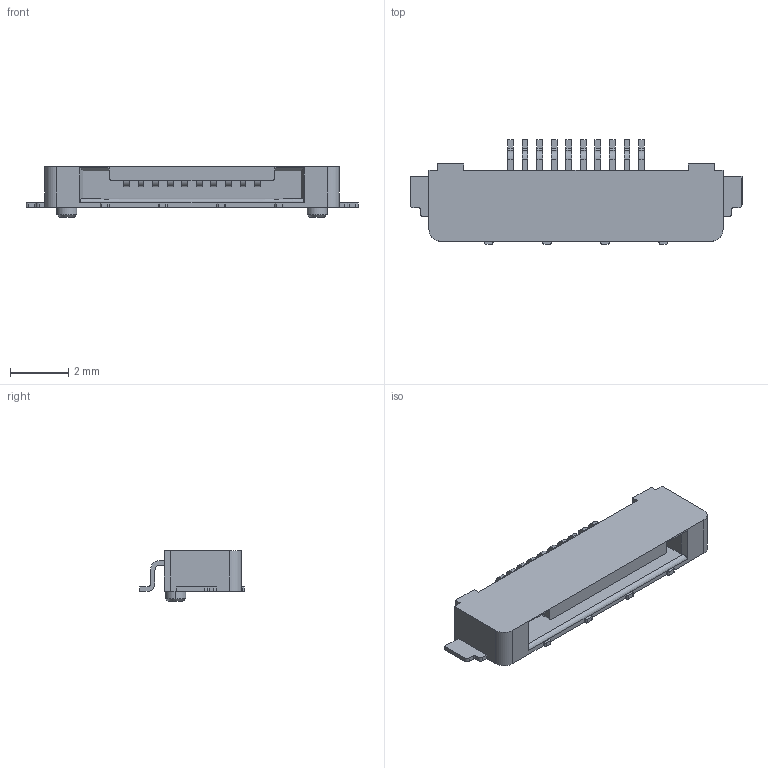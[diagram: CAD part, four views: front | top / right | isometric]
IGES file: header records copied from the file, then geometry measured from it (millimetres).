
Start section: Elysium IGES Interface
Global section: file name: C:\Users\1088\Desktop\SSL01-XXL3\SSL01-10L3_IG.igs; native system: Creo Elements/Direct Modeling 19.0F  14-Feb-2017; preprocessor: Creo Element/Direct IGES_3D V2.2; author: Unknown; organization: Unknown; date: 20170804.144107; units: millimetre
Bounding box: 11.4 x 3.58 x 1.75 mm (x, y, z)
Volume: 27.7 mm3; surface area: 135.3 mm2
Topology: 1 solids, 1 shells, 294 faces, 861 edges, 572 vertices
Faces by surface type: bspline 294
